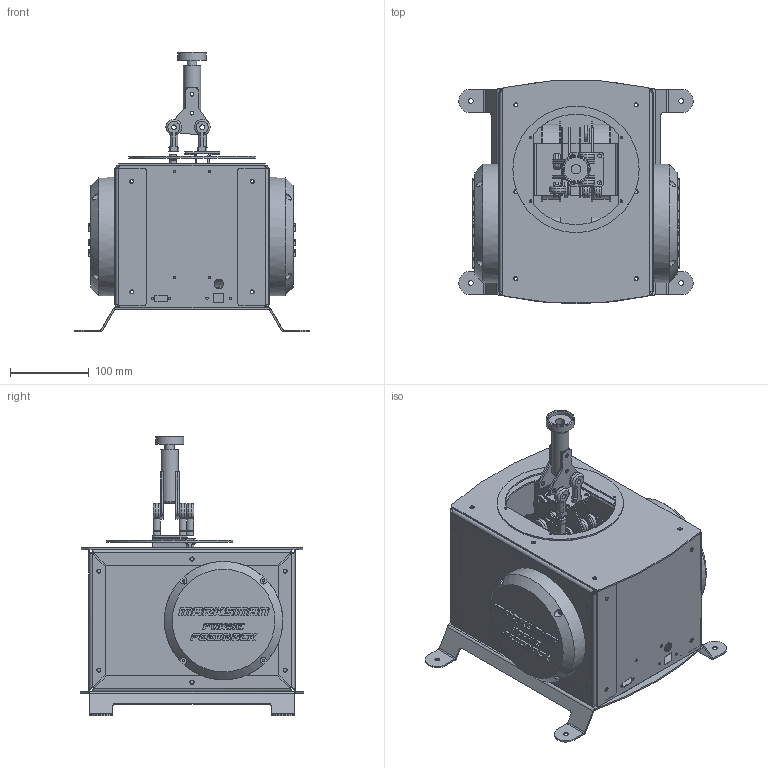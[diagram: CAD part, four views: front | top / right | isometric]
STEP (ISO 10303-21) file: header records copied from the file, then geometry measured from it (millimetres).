
FILE_DESCRIPTION(/* description */ (''),/* implementation_level */ '2;1');
FILE_NAME(/* name */ 'Marksman Force feedback.step',/* time_stamp */ '2022-12-12T20:24:06+03:00',/* author */ (''),/* organization */ (''),/* preprocessor_version */ 'ST-DEVELOPER v19.2',/* originating_system */ 'Autodesk Translation Framework v11.17.0.187',/* authorisation */ '');
FILE_SCHEMA (('AUTOMOTIVE_DESIGN { 1 0 10303 214 3 1 1 }'));
Products named in the file (3): рус.ффб; Component8; Component9
Assembly tree (2 placements, depth 2):
  рус.ффб
    Component8
    Component9
Bounding box: 296.54 x 283.17 x 353.94 mm (x, y, z)
Volume: 3068741.2 mm3; surface area: 1224908.2 mm2
Topology: 44 solids, 44 shells, 2555 faces, 6826 edges, 4491 vertices
Faces by surface type: plane 1287, bspline 652, cylinder 571, cone 29, torus 16
Full cylindrical faces by diameter (mm): 2.5 x16, 3 x8, 3.1 x20, 3.4 x4, 4 x23, 4.1 x24, 4.2 x4, 4.234 x4, 4.3 x39, 5 x22, 5.2 x35, 6 x34, 6.1 x4, 10 x2, 12 x2, 12.9 x4, 16 x2, 20 x2, 21.9 x4, 22 x1, 30 x1, 35.822 x1, 95.35 x2, 100 x2, 102 x4, 126 x2, 150 x2, 160 x1
Entity records: 87743 total; most frequent: CARTESIAN_POINT 26610, ORIENTED_EDGE 13652, DIRECTION 10359, EDGE_CURVE 6826, VERTEX_POINT 4491, LINE 4293, VECTOR 4293, EDGE_LOOP 3197
